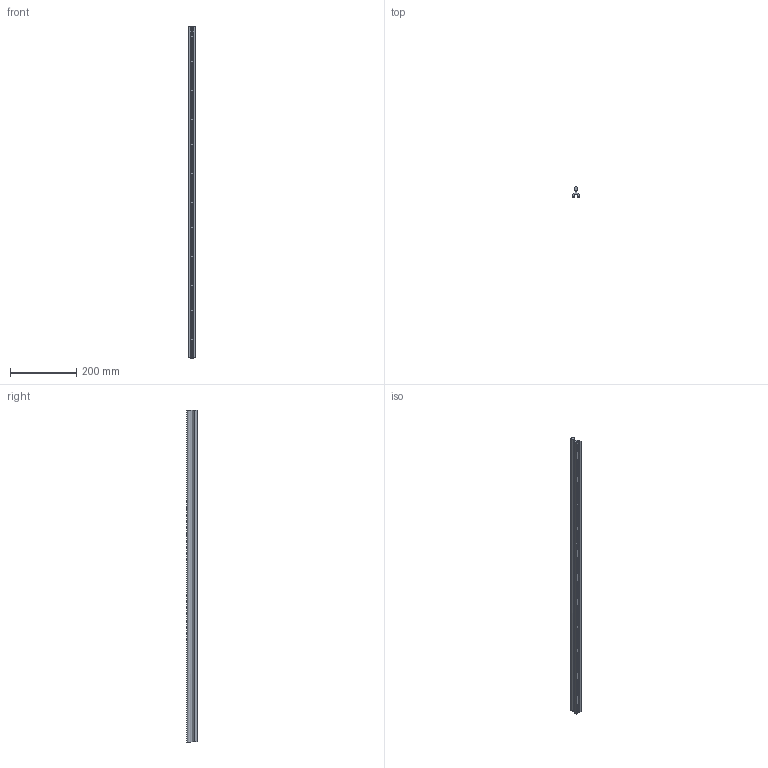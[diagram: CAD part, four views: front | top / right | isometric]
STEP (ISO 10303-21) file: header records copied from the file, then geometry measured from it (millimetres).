
FILE_DESCRIPTION (( 'STEP AP203' ), '1' );
FILE_NAME ('LFS-12-11_-_LFS-12-11 L=998 - ArtNr 220002 0998.step', '2015-05-04T10:55:24', ( '' ), ( '' ), 'SwSTEP 2.0', 'SolidWorks 2014', '' );
FILE_SCHEMA (( 'CONFIG_CONTROL_DESIGN' ));
Length unit declared in the file: millimetre
Products named in the file (1): LFS-12-11_-_LFS-12-11 L=998 - ArtNr 220002 0998
Bounding box: 20 x 31 x 1000 mm (x, y, z)
Volume: 302051.9 mm3; surface area: 135350.9 mm2
Topology: 1 solids, 1 shells, 706 faces, 1896 edges, 1210 vertices
Faces by surface type: cylinder 335, plane 331, cone 20, torus 20
Full cylindrical faces by diameter (mm): 7 x20, 8 x20, 12 x1
Entity records: 22684 total; most frequent: CARTESIAN_POINT 6690, ORIENTED_EDGE 3548, DIRECTION 2901, EDGE_CURVE 1774, VERTEX_POINT 1169, AXIS2_PLACEMENT_3D 980, VECTOR 941, LINE 941
